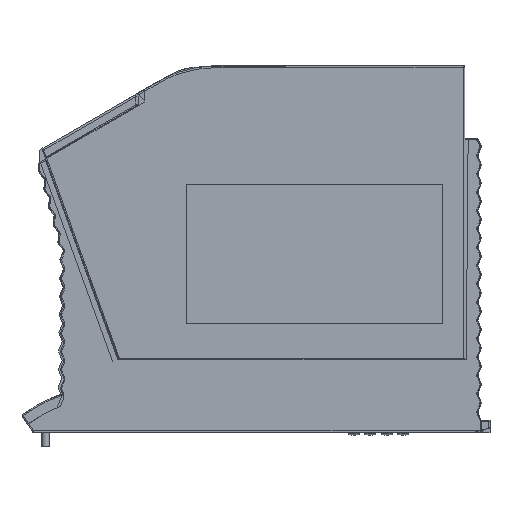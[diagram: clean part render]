
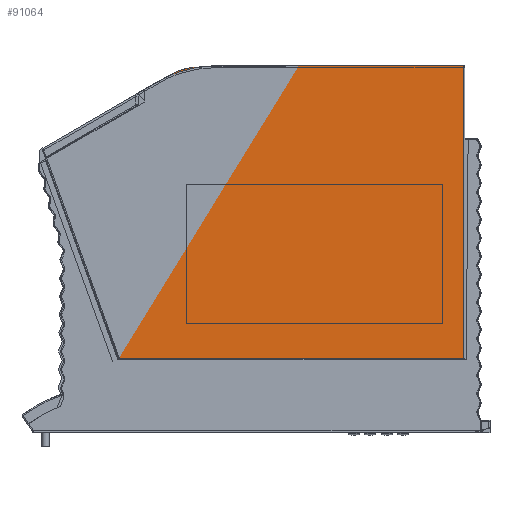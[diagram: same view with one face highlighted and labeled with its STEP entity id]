
A CAD part, front view. The second image highlights one B-rep face of the part: STEP entity #91064.
In plain terms, the highlighted planar face has unit normal (0, -1, 0).
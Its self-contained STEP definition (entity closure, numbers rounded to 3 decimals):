
#90369=DIRECTION('',(-0.001,0.,1.));
#90370=VECTOR('',#90369,0.376);
#90371=CARTESIAN_POINT('',(-31.08,-20.,
43.792));
#90372=LINE('',#90371,#90370);
#90373=CARTESIAN_POINT('',(56.,-20.001,
53.7));
#90374=CARTESIAN_POINT('',(41.702,-20.,
53.7));
#90375=CARTESIAN_POINT('',(25.881,-20.001,
53.702));
#90376=CARTESIAN_POINT('',(6.688,-20.,
53.691));
#90377=CARTESIAN_POINT('',(1.458,-20.,
53.686));
#90378=CARTESIAN_POINT('',(-4.549,-19.999,
53.669));
#90379=CARTESIAN_POINT('',(-7.284,-19.999,
53.657));
#90380=CARTESIAN_POINT('',(-10.991,-19.999,
53.612));
#90381=CARTESIAN_POINT('',(-12.909,-19.999,
53.576));
#90382=CARTESIAN_POINT('',(-15.428,-19.999,
53.47));
#90383=CARTESIAN_POINT('',(-16.854,-19.999,
53.377));
#90384=CARTESIAN_POINT('',(-18.411,-19.999,
53.197));
#90385=CARTESIAN_POINT('',(-19.39,-19.999,
53.041));
#90386=CARTESIAN_POINT('',(-20.251,-19.999,
52.837));
#90387=CARTESIAN_POINT('',(-21.,-19.999,
52.619));
#90388=CARTESIAN_POINT('',(-21.541,-19.999,
52.422));
#90389=CARTESIAN_POINT('',(-22.227,-19.999,
52.129));
#90390=CARTESIAN_POINT('',(-22.579,-19.999,
51.96));
#90391=CARTESIAN_POINT('',(-23.147,-19.999,
51.665));
#90392=CARTESIAN_POINT('',(-23.453,-19.999,
51.497));
#90393=CARTESIAN_POINT('',(-24.369,-19.999,
50.989));
#90394=CARTESIAN_POINT('',(-25.04,-19.999,
50.616));
#90395=CARTESIAN_POINT('',(-27.48,-19.998,
49.26));
#90396=CARTESIAN_POINT('',(-29.294,-19.999,
48.252));
#90397=CARTESIAN_POINT('',(-31.08,-19.999,
47.261));
#90399=DIRECTION('',(0.,0.,1.));
#90400=VECTOR('',#90399,80.);
#90401=CARTESIAN_POINT('',(56.,-20.,
-26.3));
#90402=LINE('',#90401,#90400);
#90403=DIRECTION('',(1.,0.,0.));
#90404=VECTOR('',#90403,94.098);
#90405=CARTESIAN_POINT('',(-38.098,-20.,
-26.3));
#90406=LINE('',#90405,#90404);
#90407=DIRECTION('',(0.342,0.,-0.94));
#90408=VECTOR('',#90407,58.065);
#90409=CARTESIAN_POINT('',(-57.958,-20.,
28.264));
#90410=LINE('',#90409,#90408);
#90411=DIRECTION('',(-0.866,0.,-0.5));
#90412=VECTOR('',#90411,31.041);
#90413=CARTESIAN_POINT('',(-31.08,-20.,
43.792));
#90414=LINE('',#90413,#90412);
#90424=DIRECTION('',(0.,0.,1.));
#90425=VECTOR('',#90424,3.092);
#90426=CARTESIAN_POINT('',(-31.08,-20.,
44.169));
#90427=LINE('',#90426,#90425);
#90845=CARTESIAN_POINT('',(-31.08,-20.,
44.169));
#90846=CARTESIAN_POINT('',(-31.08,-20.,
43.792));
#90847=VERTEX_POINT('',#90845);
#90848=VERTEX_POINT('',#90846);
#90849=CARTESIAN_POINT('',(56.,-20.,
-26.3));
#90851=VERTEX_POINT('',#90849);
#90909=VERTEX_POINT('',#90373);
#90910=VERTEX_POINT('',#90397);
#90932=CARTESIAN_POINT('',(-57.958,-20.,
28.264));
#90933=VERTEX_POINT('',#90932);
#90935=CARTESIAN_POINT('',(-38.098,-20.,
-26.3));
#90936=VERTEX_POINT('',#90935);
#91044=CARTESIAN_POINT('',(-0.979,-20.,
13.7));
#91045=DIRECTION('',(0.,1.,0.));
#91046=DIRECTION('',(0.,0.,-1.));
#91047=AXIS2_PLACEMENT_3D('',#91044,#91045,#91046);
#91048=PLANE('',#91047);
#91050=ORIENTED_EDGE('',*,*,#91049,.T.);
#91052=ORIENTED_EDGE('',*,*,#91051,.T.);
#91053=ORIENTED_EDGE('',*,*,#91018,.F.);
#91055=ORIENTED_EDGE('',*,*,#91054,.F.);
#91057=ORIENTED_EDGE('',*,*,#91056,.F.);
#91059=ORIENTED_EDGE('',*,*,#91058,.F.);
#91061=ORIENTED_EDGE('',*,*,#91060,.F.);
#91062=EDGE_LOOP('',(#91050,#91052,#91053,#91055,#91057,#91059,#91061));
#91063=FACE_OUTER_BOUND('',#91062,.F.);
#91064=ADVANCED_FACE('',(#91063),#91048,.F.);
#90398=B_SPLINE_CURVE_WITH_KNOTS('',3,(#90373,#90374,#90375,#90376,#90377,
#90378,#90379,#90380,#90381,#90382,#90383,#90384,#90385,#90386,#90387,#90388,
#90389,#90390,#90391,#90392,#90393,#90394,#90395,#90396,#90397),.UNSPECIFIED.,
.F.,.F.,(4,1,1,1,1,1,1,1,1,1,1,1,1,1,1,1,1,1,1,1,1,1,4),(0.,0.486,
0.533,0.652,0.664,0.737,
0.744,0.79,0.802,0.83,
0.838,0.855,0.863,0.868,
0.881,0.883,0.894,0.894,
0.905,0.905,0.93,0.931,1.),
.UNSPECIFIED.);
#91018=EDGE_CURVE('',#90909,#90910,#90398,.T.);
#91049=EDGE_CURVE('',#90848,#90847,#90372,.T.);
#91051=EDGE_CURVE('',#90847,#90910,#90427,.T.);
#91054=EDGE_CURVE('',#90851,#90909,#90402,.T.);
#91056=EDGE_CURVE('',#90936,#90851,#90406,.T.);
#91058=EDGE_CURVE('',#90933,#90936,#90410,.T.);
#91060=EDGE_CURVE('',#90848,#90933,#90414,.T.);
